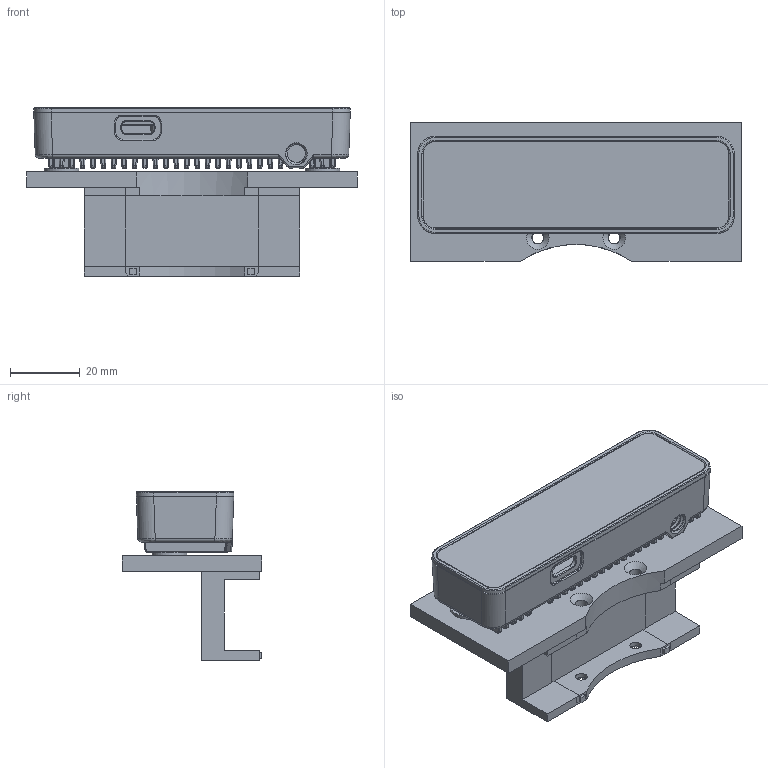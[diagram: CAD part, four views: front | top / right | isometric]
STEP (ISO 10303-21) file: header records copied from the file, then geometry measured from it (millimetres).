
FILE_DESCRIPTION(('Open CASCADE Model'),'2;1');
FILE_NAME('Open CASCADE Shape Model','2026-09-30T12:47:36',('Author'),( 'Open CASCADE'),'Open CASCADE STEP processor 7.9','Open CASCADE 7.9' ,'Unknown');
FILE_SCHEMA(('AUTOMOTIVE_DESIGN { 1 0 10303 214 1 1 1 1 }'));
Length unit declared in the file: millimetre
Products named in the file (3): OAK_D_Lite_B601_v2; PRINT_mount; REFERENCE_camera_do_not_print
Assembly tree (2 placements, depth 2):
  OAK_D_Lite_B601_v2
    PRINT_mount
    REFERENCE_camera_do_not_print
Bounding box: 95 x 40 x 48.45 mm (x, y, z)
Volume: 45344.5 mm3; surface area: 44790.6 mm2
Topology: 14 solids, 14 shells, 2091 faces, 5263 edges, 3260 vertices
Faces by surface type: cylinder 912, plane 515, bspline 475, cone 120, torus 45, sphere 16, extrusion 8
Full cylindrical faces by diameter (mm): 3.3 x2, 3.5 x4, 4.5 x2, 10 x2
Entity records: 395092 total; most frequent: CARTESIAN_POINT 302449, DIRECTION 13008, ORIENTED_EDGE 10526, PCURVE 10526, DEFINITIONAL_REPRESENTATION 10526, VECTOR 7312, LINE 7304, B_SPLINE_CURVE_WITH_KNOTS 6964
